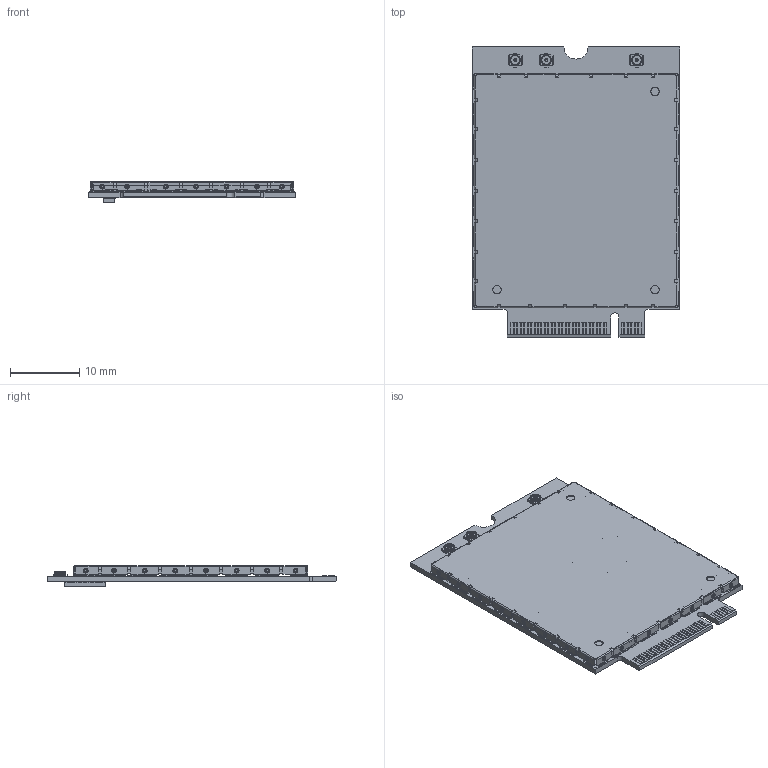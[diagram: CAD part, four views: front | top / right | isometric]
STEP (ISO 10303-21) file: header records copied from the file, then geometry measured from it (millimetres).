
FILE_DESCRIPTION((''),'2;1');
FILE_NAME('20-36181-XX_ASM','2024-08-16T15:49:17',('Ghost_Wang'),(''),'CREO PARAMETRIC BY PTC INC, 2021284','CREO PARAMETRIC BY PTC INC, 2021284','');
FILE_SCHEMA(('AUTOMOTIVE_DESIGN { 1 0 10303 214 1 1 1 1 }'));
Products named in the file (12): 25-36181-XX; 470-80881-0020; PCIEXPRESS_M_2_3042_WWAN_PCIE; TP-SM12DIA; 480-87925-0000; 50-65297-P900_PAD; 50-65297-P900; 50-35130-P900; 50-65297-P900_ASM; 36181A_SIDEA_SHIELD_2023DEC6; 36181A_SIDEB_SHIELD_2023DEC6; 20-36181-XX_ASM
Assembly tree (26 placements, depth 3):
  20-36181-XX_ASM
    25-36181-XX
    470-80881-0020
    PCIEXPRESS_M_2_3042_WWAN_PCIE
    TP-SM12DIA  x14
    480-87925-0000  x3
    50-65297-P900_ASM
      50-65297-P900_PAD
      50-65297-P900
      50-35130-P900
    36181A_SIDEA_SHIELD_2023DEC6
    36181A_SIDEB_SHIELD_2023DEC6
Bounding box: 30 x 42 x 2.97 mm (x, y, z)
Volume: 1254.8 mm3; surface area: 6306.8 mm2
Topology: 132 solids, 132 shells, 2220 faces, 5292 edges, 3377 vertices
Faces by surface type: plane 1731, cylinder 405, bspline 46, cone 24, torus 14
Entity records: 76139 total; most frequent: CARTESIAN_POINT 11616, DIRECTION 9830, ORIENTED_EDGE 9764, PRESENTATION_STYLE_ASSIGNMENT 5040, STYLED_ITEM 4999, CURVE_STYLE 4882, EDGE_CURVE 4882, VECTOR 3944
